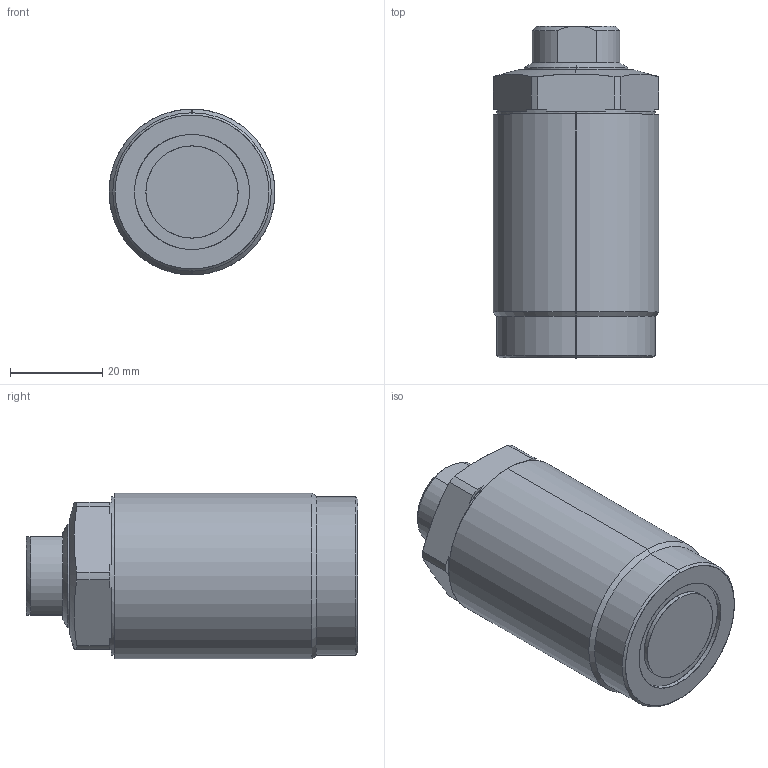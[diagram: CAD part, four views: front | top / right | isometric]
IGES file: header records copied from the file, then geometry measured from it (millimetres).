
Start section: SolidWorks IGES file using analytic representation for surfaces
Global section: file name: D:\karuppas\Clasp\3D model\Thread body cylinder\T03C-M364-M threaded pusher\T03C-M364-M threaded pusher.IGS; native system: SolidWorks 2017; preprocessor: SolidWorks 2017; author: pc; date: 220709.231202; units: millimetre
Bounding box: 36 x 72 x 36 mm (x, y, z)
Surface area: 13024.5 mm2 (no closed solid volume)
Topology: 0 solids, 0 shells, 267 faces, 3136 edges, 3134 vertices
Faces by surface type: bspline 226, revolution 41
